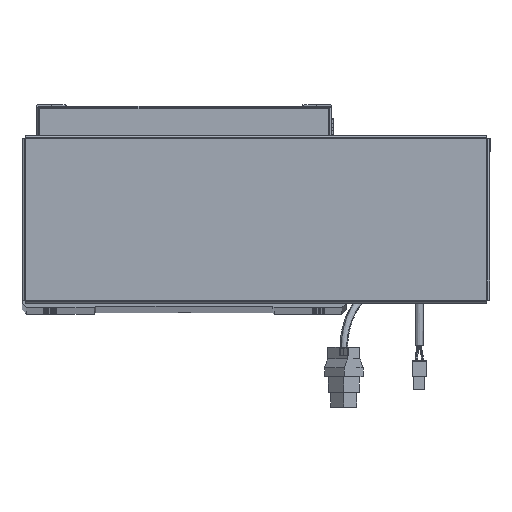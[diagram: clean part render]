
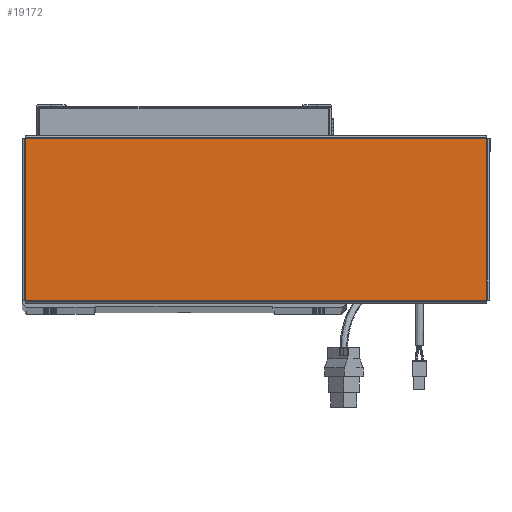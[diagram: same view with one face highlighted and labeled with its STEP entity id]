
A CAD part, top view. The second image highlights one B-rep face of the part: STEP entity #19172.
In plain terms, the highlighted planar face has unit normal (0, 0, 1).
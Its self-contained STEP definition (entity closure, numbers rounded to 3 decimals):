
#149 = CARTESIAN_POINT ( 'NONE',  ( 156.543, 54.763, 0. ) ) ;
#308 = LINE ( 'NONE', #33685, #62536 ) ;
#1118 = AXIS2_PLACEMENT_3D ( 'NONE', #40296, #34666, #68424 ) ;
#4441 = DIRECTION ( 'NONE',  ( 1., 0., 0. ) ) ;
#6279 = PLANE ( 'NONE',  #1118 ) ;
#13166 = CARTESIAN_POINT ( 'NONE',  ( 156.513, 54.763, 0. ) ) ;
#17690 = EDGE_CURVE ( 'NONE', #68256, #68053, #308, .T. ) ;
#17707 = EDGE_CURVE ( 'NONE', #58002, #68256, #72118, .T. ) ;
#17708 = DIRECTION ( 'NONE',  ( 0., 1., 0. ) ) ;
#18137 = ORIENTED_EDGE ( 'NONE', *, *, #53161, .T. ) ;
#18422 = CARTESIAN_POINT ( 'NONE',  ( 156.513, -54.793, 0. ) ) ;
#18597 = FACE_OUTER_BOUND ( 'NONE', #19381, .T. ) ;
#19172 = ADVANCED_FACE ( 'NONE', ( #18597 ), #6279, .T. ) ;
#19381 = EDGE_LOOP ( 'NONE', ( #18137, #56033, #62380, #65098 ) ) ;
#23699 = CARTESIAN_POINT ( 'NONE',  ( -156.513, -54.763, 0. ) ) ;
#28305 = DIRECTION ( 'NONE',  ( 0., -1., 0. ) ) ;
#28730 = LINE ( 'NONE', #38503, #71581 ) ;
#31182 = VECTOR ( 'NONE', #17708, 1000. ) ;
#33685 = CARTESIAN_POINT ( 'NONE',  ( -156.513, 54.793, 0. ) ) ;
#34666 = DIRECTION ( 'NONE',  ( 0., 0., 1. ) ) ;
#38503 = CARTESIAN_POINT ( 'NONE',  ( -156.543, -54.763, 0. ) ) ;
#40296 = CARTESIAN_POINT ( 'NONE',  ( 0., 0., 0. ) ) ;
#44852 = CARTESIAN_POINT ( 'NONE',  ( 156.513, -54.763, 0. ) ) ;
#46064 = LINE ( 'NONE', #18422, #31182 ) ;
#53161 = EDGE_CURVE ( 'NONE', #68053, #62918, #28730, .T. ) ;
#56033 = ORIENTED_EDGE ( 'NONE', *, *, #71918, .T. ) ;
#58002 = VERTEX_POINT ( 'NONE', #13166 ) ;
#62074 = DIRECTION ( 'NONE',  ( -1., 0., 0. ) ) ;
#62380 = ORIENTED_EDGE ( 'NONE', *, *, #17707, .T. ) ;
#62536 = VECTOR ( 'NONE', #28305, 1000. ) ;
#62918 = VERTEX_POINT ( 'NONE', #44852 ) ;
#65098 = ORIENTED_EDGE ( 'NONE', *, *, #17690, .T. ) ;
#65994 = CARTESIAN_POINT ( 'NONE',  ( -156.513, 54.763, 0. ) ) ;
#68053 = VERTEX_POINT ( 'NONE', #23699 ) ;
#68256 = VERTEX_POINT ( 'NONE', #65994 ) ;
#68424 = DIRECTION ( 'NONE',  ( 1., 0., 0. ) ) ;
#70374 = VECTOR ( 'NONE', #62074, 1000. ) ;
#71581 = VECTOR ( 'NONE', #4441, 1000. ) ;
#71918 = EDGE_CURVE ( 'NONE', #62918, #58002, #46064, .T. ) ;
#72118 = LINE ( 'NONE', #149, #70374 ) ;
